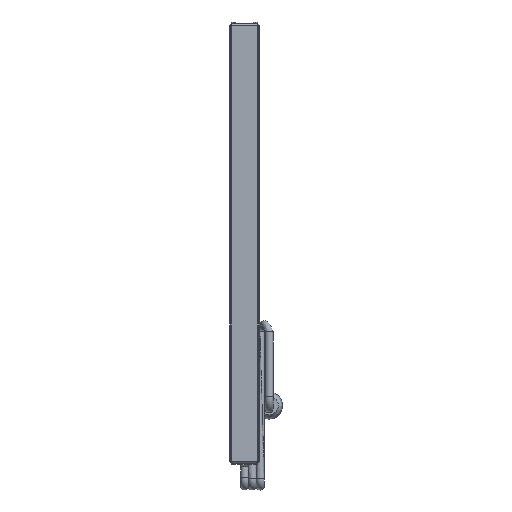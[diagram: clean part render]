
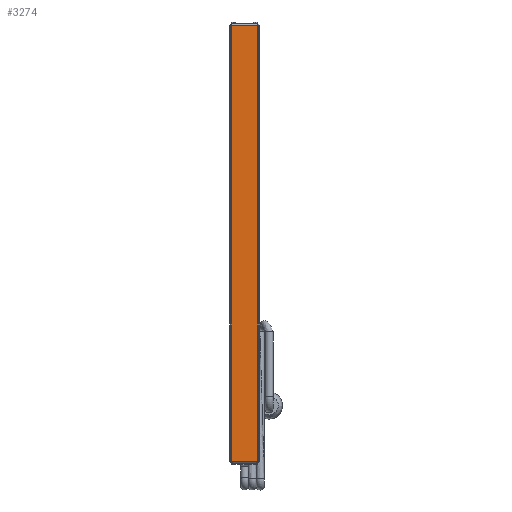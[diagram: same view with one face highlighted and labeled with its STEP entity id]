
A CAD part, front view. The second image highlights one B-rep face of the part: STEP entity #3274.
In plain terms, the highlighted planar face has unit normal (0, -1, 0).
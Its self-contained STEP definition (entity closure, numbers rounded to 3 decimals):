
#2996=CARTESIAN_POINT('',(18.421,0.,596.9));
#2997=VERTEX_POINT('',#2996);
#3005=CARTESIAN_POINT('',(18.421,0.,0.0));
#3006=VERTEX_POINT('',#3005);
#3007=CARTESIAN_POINT('',(18.421,0.0,596.9));
#3008=DIRECTION('',(0.0,0.0,-1.0));
#3009=VECTOR('',#3008,596.9);
#3010=LINE('',#3007,#3009);
#3011=EDGE_CURVE('',#2997,#3006,#3010,.T.);
#3037=CARTESIAN_POINT('',(-18.421,0.,0.0));
#3038=VERTEX_POINT('',#3037);
#3039=CARTESIAN_POINT('',(-18.421,0.,0.0));
#3040=DIRECTION('',(1.0,0.0,0.0));
#3041=VECTOR('',#3040,36.842);
#3042=LINE('',#3039,#3041);
#3043=EDGE_CURVE('',#3038,#3006,#3042,.T.);
#3251=CARTESIAN_POINT('',(18.735,0.0,0.0));
#3252=DIRECTION('',(0.0,-1.0,0.0));
#3253=DIRECTION('',(0.0,0.0,-1.0));
#3254=AXIS2_PLACEMENT_3D('',#3251,#3252,#3253);
#3255=PLANE('',#3254);
#3256=ORIENTED_EDGE('',*,*,#3011,.F.);
#3257=CARTESIAN_POINT('',(-18.421,0.,596.9));
#3258=VERTEX_POINT('',#3257);
#3259=CARTESIAN_POINT('',(18.421,0.,596.9));
#3260=DIRECTION('',(-1.0,0.0,0.0));
#3261=VECTOR('',#3260,36.842);
#3262=LINE('',#3259,#3261);
#3263=EDGE_CURVE('',#2997,#3258,#3262,.T.);
#3264=ORIENTED_EDGE('',*,*,#3263,.T.);
#3265=CARTESIAN_POINT('',(-18.421,0.0,0.0));
#3266=DIRECTION('',(0.0,0.0,1.0));
#3267=VECTOR('',#3266,596.9);
#3268=LINE('',#3265,#3267);
#3269=EDGE_CURVE('',#3038,#3258,#3268,.T.);
#3270=ORIENTED_EDGE('',*,*,#3269,.F.);
#3271=ORIENTED_EDGE('',*,*,#3043,.T.);
#3272=EDGE_LOOP('',(#3256,#3264,#3270,#3271));
#3273=FACE_OUTER_BOUND('',#3272,.T.);
#3274=ADVANCED_FACE('',(#3273),#3255,.T.);
